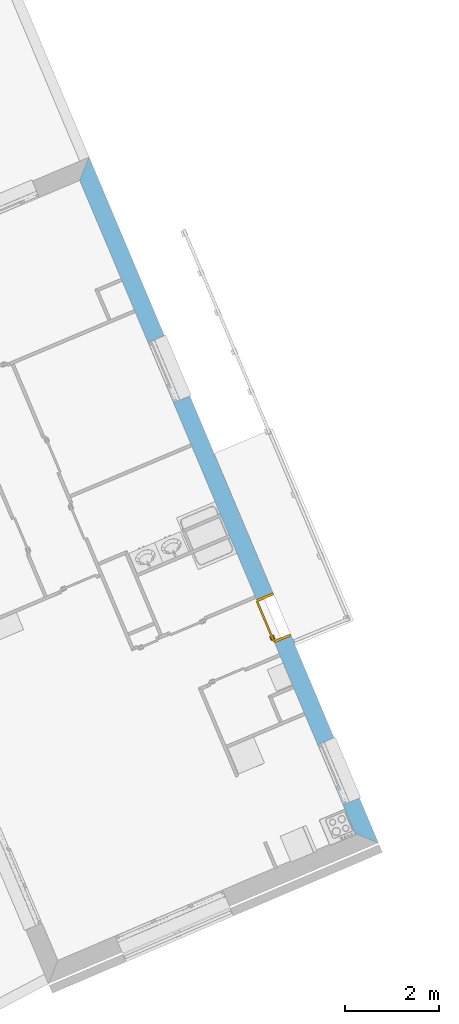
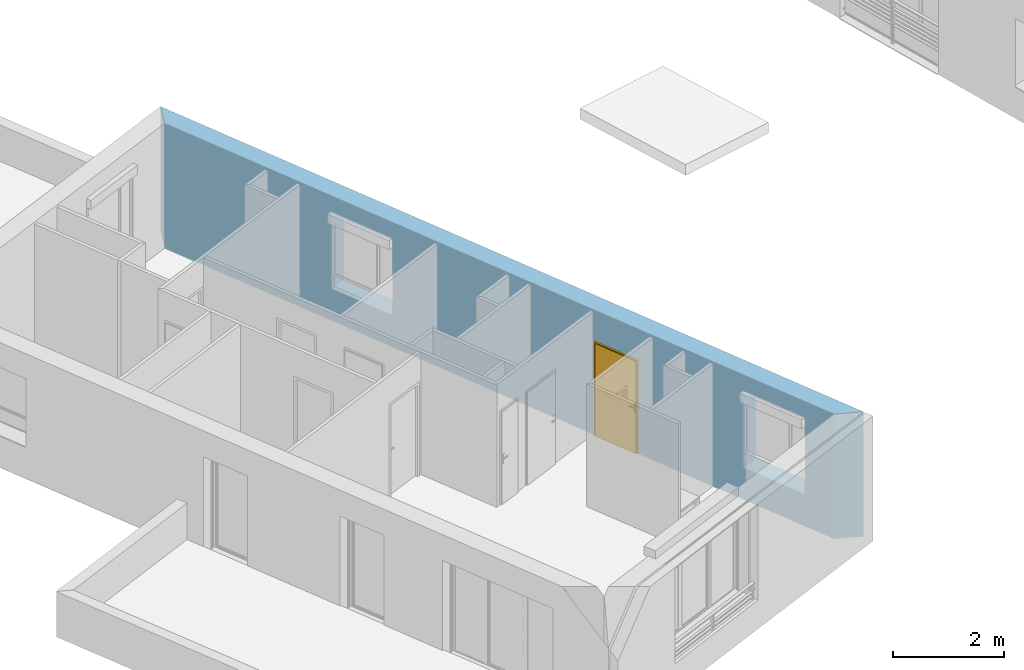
# One storey, part 37 of 121: 1 door, 3 openings, plus 1 element that does not belong to this part.
"""IFC2X3 building model written with IfcOpenShell, lengths in metres."""

from ifc_helpers import new_model, entity, si_unit, converted_unit, derived_unit, money_unit, direction, frame, origin_with_axes, origin_2d_with_axis, place, context, subcontext, project, spatial, polyline, rectangle, outline, extrude, faceted_brep, source, transform, mapped, material, layer, layer_set, layer_usage, type_object, element, fill, save


model = new_model("IFC2X3")

# Units and contexts
model_context = context("Model", 3, precision=1e-05, world=origin_with_axes(), true_north=direction((0.0, 1.0)))
body_context = subcontext(model_context, "Body", "Model", "MODEL_VIEW")
ifc_project = project(units=[si_unit("LENGTHUNIT", "METRE"), si_unit("AREAUNIT", "SQUARE_METRE"), si_unit("VOLUMEUNIT", "CUBIC_METRE"), converted_unit("PLANEANGLEUNIT", "DEGREE", entity("IfcPlaneAngleMeasure", 0.0174532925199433), si_unit("PLANEANGLEUNIT", "RADIAN"), dimensions=[0, 0, 0, 0, 0, 0, 0]), money_unit("CHF"), converted_unit("TIMEUNIT", "Year", entity("IfcTimeMeasure", 31557600.0), si_unit("TIMEUNIT", "SECOND"), dimensions=[0, 0, 1, 0, 0, 0, 0]), si_unit("MASSUNIT", "GRAM", prefix="KILO"), si_unit("THERMODYNAMICTEMPERATUREUNIT", "DEGREE_CELSIUS"), si_unit("LUMINOUSINTENSITYUNIT", "LUMEN"), si_unit("ENERGYUNIT", "JOULE", prefix="MEGA"), derived_unit("THERMALCONDUCTANCEUNIT", [(si_unit("POWERUNIT", "WATT"), 1), (si_unit("LENGTHUNIT", "METRE"), -1), (si_unit("THERMODYNAMICTEMPERATUREUNIT", "KELVIN"), -1)]), derived_unit("SPECIFICHEATCAPACITYUNIT", [(si_unit("ENERGYUNIT", "JOULE"), 1), (si_unit("MASSUNIT", "GRAM", prefix="KILO"), -1), (si_unit("THERMODYNAMICTEMPERATUREUNIT", "KELVIN"), -1)]), derived_unit("MASSDENSITYUNIT", [(si_unit("MASSUNIT", "GRAM", prefix="KILO"), 1), (si_unit("VOLUMEUNIT", "CUBIC_METRE"), -1)])], contexts=[model_context])

# Site, building, storey
site_placement = place(None, origin_with_axes())
site = spatial("IfcSite", under=ifc_project, at=site_placement, Name="Site", CompositionType="ELEMENT")
building_placement = place(site_placement, origin_with_axes())
building = spatial("IfcBuilding", under=site, at=building_placement, Name="Bâtiment", CompositionType="ELEMENT")
storey_placement = place(building_placement, frame((0.0, 0.0, 2.75), z_axis=(0.0, 0.0, 1.0), x_axis=(1.0, 0.0, 0.0)))
storey = spatial("IfcBuildingStorey", under=building, at=storey_placement, Name="Etage 1", CompositionType="ELEMENT", Elevation=2.75)

# Wall, openings, door
ifc_material_1 = material(Name="Parpaing 312445824")
ifc_layer_1 = layer(ifc_material_1, 0.22, ventilated="UNKNOWN")
ifc_material_2 = material(Name="Isolant styromousse 301821074")
ifc_layer_2 = layer(ifc_material_2, 0.16, ventilated="UNKNOWN")
ifc_layer_set = layer_set([ifc_layer_1, ifc_layer_2], Name="isol int 22+16 0836643197")
ifc_layer_usage = layer_usage(ifc_layer_set, "AXIS2", "NEGATIVE", 0.0)
wall_type = type_object("IfcWallType", Name="isol int 22+16 0836643197 380", PredefinedType="NOTDEFINED")
wall_placement = place(storey_placement, frame((9572.789102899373, -1048.128803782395, 57.7), z_axis=(0.0, 0.0, 1.0), x_axis=(0.3885669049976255, -0.9214205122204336, 0.0)))
wall = element("IfcWallStandardCase", 1, at=wall_placement, inside=storey, type_object=wall_type, material=ifc_layer_usage, Name="Mur-113", context=body_context, shape_type="SweptSolid", body=[
    extrude(outline(polyline([(0.379999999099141, -0.3799999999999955), (15.53325516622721, -0.3799999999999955), (15.91155349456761, 0.0), (-9.952714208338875e-10, 0.0), (0.379999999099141, -0.3799999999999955)])), origin_with_axes(), (0.0, 0.0, 1.0), 2.75),
])
opening_1_placement = place(wall_placement, frame((14.17313174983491, 0.0, 0.7000000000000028), z_axis=(0.0, 0.0, 1.0), x_axis=(1.0, 0.0, 0.0)))
element("IfcOpeningElement", 2, at=opening_1_placement, cuts=wall, Name="Fen-045", context=body_context, shape_type="Brep", body=[
    faceted_brep([(-0.6999999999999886, -0.2199999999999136, 1.5), (0.7000000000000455, -0.2199999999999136, 1.5), (0.7000000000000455, 5.697869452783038, 1.5), (-0.6999999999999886, 5.697869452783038, 1.5), (-0.6999999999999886, -0.2199999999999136, 1.700000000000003), (0.7000000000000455, -0.2199999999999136, 1.700000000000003), (0.7000000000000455, -0.2999999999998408, 1.5), (0.7000000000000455, -0.2999999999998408, 0.0), (0.7000000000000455, 5.697869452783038, 0.0), (-0.6999999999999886, 5.697869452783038, 0.0), (-0.6999999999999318, -0.2999999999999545, 1.5), (-0.6999999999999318, -0.2999999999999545, 0.0), (-0.6999999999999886, -0.4799999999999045, 1.5), (-0.6999999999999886, -0.4799999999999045, 1.700000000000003), (0.7000000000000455, -0.4799999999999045, 1.700000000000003), (0.7000000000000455, -0.4799999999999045, 1.5), (0.7000000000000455, -6.077869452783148, 1.5), (0.7000000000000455, -6.077869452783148, 0.0), (-0.6999999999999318, -6.077869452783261, 0.0), (-0.6999999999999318, -6.077869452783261, 1.5)], [[[0, 1, 2, 3]], [[1, 0, 4, 5]], [[1, 6, 7, 8, 2]], [[2, 8, 9, 3]], [[10, 0, 3, 9, 11]], [[0, 10, 12, 13, 4]], [[14, 5, 4, 13]], [[6, 1, 5, 14, 15]], [[6, 15, 16, 17, 7]], [[7, 11, 9, 8]], [[12, 10, 11, 18, 19]], [[12, 15, 14, 13]], [[15, 12, 19, 16]], [[19, 18, 17, 16]], [[11, 7, 17, 18]]]),
])
opening_2_placement = place(wall_placement, frame((4.840910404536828, 0.0, 0.7000000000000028), z_axis=(0.0, 0.0, 1.0), x_axis=(1.0, 0.0, 0.0)))
element("IfcOpeningElement", 3, at=opening_2_placement, cuts=wall, Name="Fen-045", context=body_context, shape_type="Brep", body=[
    faceted_brep([(-0.6999999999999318, -0.2199999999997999, 1.5), (0.7000000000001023, -0.2199999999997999, 1.5), (0.7000000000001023, 5.697869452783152, 1.5), (-0.6999999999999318, 5.697869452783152, 1.5), (-0.6999999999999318, -0.2199999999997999, 1.700000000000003), (0.7000000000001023, -0.2199999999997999, 1.700000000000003), (0.7000000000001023, -0.2999999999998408, 1.5), (0.7000000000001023, -0.2999999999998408, 0.0), (0.7000000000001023, 5.697869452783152, 0.0), (-0.6999999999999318, 5.697869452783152, 0.0), (-0.6999999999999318, -0.2999999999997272, 1.5), (-0.6999999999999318, -0.2999999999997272, 0.0), (-0.6999999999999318, -0.4799999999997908, 1.5), (-0.6999999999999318, -0.4799999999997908, 1.700000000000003), (0.7000000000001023, -0.4799999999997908, 1.700000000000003), (0.7000000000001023, -0.4799999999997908, 1.5), (0.7000000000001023, -6.07786945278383, 1.5), (0.7000000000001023, -6.07786945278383, 0.0), (-0.6999999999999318, -6.077869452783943, 0.0), (-0.6999999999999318, -6.077869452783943, 1.5)], [[[0, 1, 2, 3]], [[1, 0, 4, 5]], [[1, 6, 7, 8, 2]], [[2, 8, 9, 3]], [[10, 0, 3, 9, 11]], [[0, 10, 12, 13, 4]], [[14, 5, 4, 13]], [[6, 1, 5, 14, 15]], [[6, 15, 16, 17, 7]], [[7, 11, 9, 8]], [[12, 10, 11, 18, 19]], [[12, 15, 14, 13]], [[15, 12, 19, 16]], [[19, 18, 17, 16]], [[11, 7, 17, 18]]]),
])
opening_3_placement = place(wall_placement, frame((10.60770232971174, 0.0, 0.0), z_axis=(0.0, 0.0, 1.0), x_axis=(1.0, 0.0, 0.0)))
opening_3 = element("IfcOpeningElement", 4, at=opening_3_placement, cuts=wall, Name="Por-299", context=body_context, shape_type="SweptSolid", body=[
    extrude(rectangle(XDim=1.01000001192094, YDim=2.079999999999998, at=origin_2d_with_axis()), frame((-5.960430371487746e-09, 0.3799999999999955, 1.039999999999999), z_axis=(0.0, -1.0, 0.0), x_axis=(-1.0, 0.0, 0.0)), (0.0, 0.0, 1.0), 0.76),
])
door_style = type_object("IfcDoorStyle", Name="Porte_1v", ConstructionType="NOTDEFINED", OperationType="NOTDEFINED", ParameterTakesPrecedence=False, Sizeable=False)
shared_shape = source(origin_with_axes(), body_context, "Body", "Brep", [
    faceted_brep([(0.5049999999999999, 0.0, 0.0), (0.465, 0.0, 0.0), (0.4649999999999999, 0.0, 2.04), (-0.4649999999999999, 0.0, 2.04), (-0.465, 0.0, 0.0), (-0.5049999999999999, 0.0, 0.0), (-0.5049999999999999, 0.0, 2.08), (0.5049999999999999, 0.0, 2.08), (0.5049999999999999, -0.38, 0.0), (0.45, -0.3799999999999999, 0.0), (0.45, -0.01500000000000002, 0.0), (0.465, -0.01500000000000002, 0.0), (0.4649999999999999, -0.01500000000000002, 2.04), (-0.4649999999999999, -0.01499999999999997, 2.04), (-0.465, -0.01499999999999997, 0.0), (-0.45, -0.01499999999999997, 0.0), (-0.45, -0.3799999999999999, 0.0), (-0.5049999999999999, -0.3799999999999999, 0.0), (-0.5049999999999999, -0.3799999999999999, 2.08), (0.5049999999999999, -0.38, 2.08), (-0.45, -0.3799999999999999, 2.025), (0.45, -0.3799999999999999, 2.025), (0.45, -0.01500000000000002, 2.025), (-0.45, -0.01499999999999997, 2.025)], [[[0, 1, 2, 3, 4, 5, 6, 7]], [[0, 8, 9, 10, 11, 1]], [[1, 11, 12, 2]], [[2, 12, 13, 3]], [[3, 13, 14, 4]], [[5, 4, 14, 15, 16, 17]], [[18, 6, 5, 17]], [[19, 7, 6, 18]], [[8, 0, 7, 19]], [[9, 8, 19, 18, 17, 16, 20, 21]], [[10, 9, 21, 22]], [[11, 10, 22, 23, 15, 14, 13, 12]], [[23, 20, 16, 15]], [[22, 21, 20, 23]]]),
    faceted_brep([(-0.4, -0.01499999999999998, 0.9), (-0.4399999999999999, -0.01499999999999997, 0.9), (-0.4399999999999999, -0.01499999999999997, 1.1), (-0.4, -0.01499999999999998, 1.1), (-0.4, -0.02499999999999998, 0.9), (-0.4399999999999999, -0.02499999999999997, 0.9), (-0.4399999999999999, -0.02499999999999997, 1.1), (-0.4, -0.02499999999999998, 1.1)], [[[0, 1, 2, 3]], [[1, 0, 4, 5]], [[2, 1, 5, 6]], [[3, 2, 6, 7]], [[0, 3, 7, 4]], [[5, 4, 7, 6]]]),
    faceted_brep([(-0.3299999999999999, -0.02499999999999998, 1.0), (-0.4299999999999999, -0.02499999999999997, 1.0), (-0.4299999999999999, -0.02499999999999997, 1.02), (-0.3299999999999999, -0.02499999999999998, 1.02), (-0.3299999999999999, -0.04499999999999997, 1.0), (-0.4299999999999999, -0.04499999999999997, 1.0), (-0.4299999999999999, -0.04499999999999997, 1.02), (-0.3299999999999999, -0.04499999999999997, 1.02)], [[[0, 1, 2, 3]], [[1, 0, 4, 5]], [[2, 1, 5, 6]], [[3, 2, 6, 7]], [[0, 3, 7, 4]], [[5, 4, 7, 6]]]),
    faceted_brep([(-0.4, 0.03500000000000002, 0.9), (-0.4399999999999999, 0.03500000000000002, 0.9), (-0.4399999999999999, 0.03500000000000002, 1.1), (-0.4, 0.03500000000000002, 1.1), (-0.4, 0.02500000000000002, 0.9), (-0.4399999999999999, 0.02500000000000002, 0.9), (-0.4399999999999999, 0.02500000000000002, 1.1), (-0.4, 0.02500000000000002, 1.1)], [[[0, 1, 2, 3]], [[1, 0, 4, 5]], [[2, 1, 5, 6]], [[3, 2, 6, 7]], [[0, 3, 7, 4]], [[5, 4, 7, 6]]]),
    faceted_brep([(-0.3299999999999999, 0.05500000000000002, 1.0), (-0.4299999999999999, 0.05500000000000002, 1.0), (-0.4299999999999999, 0.05500000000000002, 1.02), (-0.3299999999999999, 0.05500000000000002, 1.02), (-0.3299999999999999, 0.03500000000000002, 1.0), (-0.4299999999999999, 0.03500000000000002, 1.0), (-0.4299999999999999, 0.03500000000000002, 1.02), (-0.3299999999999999, 0.03500000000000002, 1.02)], [[[0, 1, 2, 3]], [[1, 0, 4, 5]], [[2, 1, 5, 6]], [[3, 2, 6, 7]], [[0, 3, 7, 4]], [[5, 4, 7, 6]]]),
    faceted_brep([(-0.465, 0.02500000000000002, 0.0), (0.465, 0.02499999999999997, 0.0), (0.465, -0.01500000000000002, 0.0), (-0.465, -0.01499999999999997, 0.0), (-0.465, 0.02500000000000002, 2.04), (0.465, 0.02499999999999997, 2.04), (0.465, -0.01500000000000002, 2.04), (-0.465, -0.01499999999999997, 2.04)], [[[0, 1, 2, 3]], [[0, 4, 5, 1]], [[1, 5, 6, 2]], [[3, 2, 6, 7]], [[4, 0, 3, 7]], [[5, 4, 7, 6]]]),
])
door_placement = place(opening_3_placement, frame((0.4650000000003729, 0.0, 0.0), z_axis=(0.0, 0.0, 1.0), x_axis=(-1.0, 0.0, 0.0)))
door = element("IfcDoor", 5, at=door_placement, inside=storey, type_object=door_style, Name="Por-299", OverallHeight=2.04, OverallWidth=0.93, context=body_context, shape_type="MappedRepresentation", body=[
    mapped(shared_shape, transform((0.4649999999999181, 0.3799999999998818, 0.0))),
])
fill(opening_3, door)

save(model, "model.ifc")
